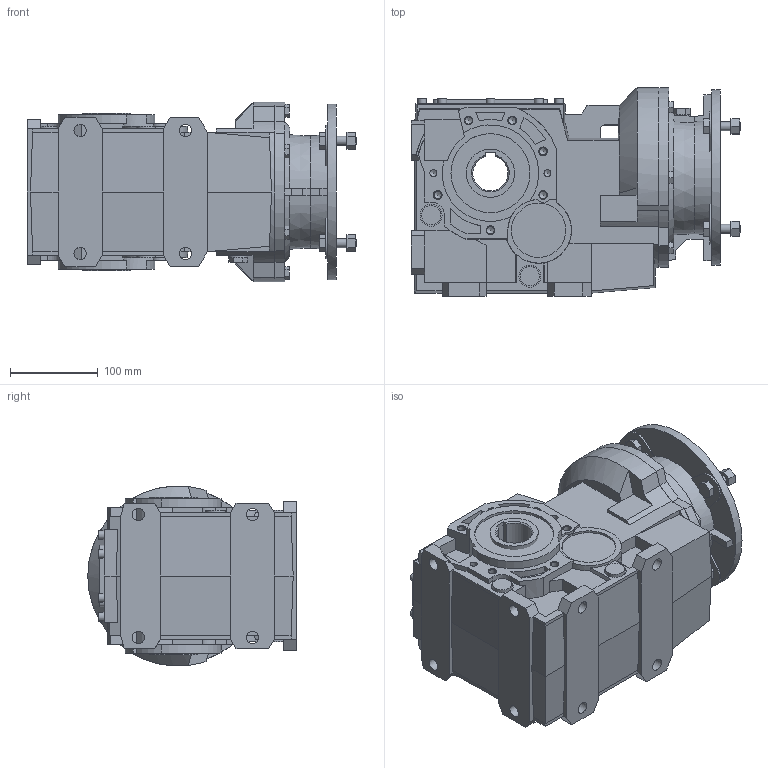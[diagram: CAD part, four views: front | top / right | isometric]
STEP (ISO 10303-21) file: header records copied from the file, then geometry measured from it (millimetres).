
FILE_DESCRIPTION(/* description */ ('STEP AP214'),/* implementation_level */ '2;1');
FILE_NAME(/* name */ 'B083UC80 B5400000000NO----(---------------)',/* time_stamp */ '2024-11-12T09:45:46+01:00',/* author */ ('License CC BY-ND 4.0'),/* organization */ ('CADENAS'),/* preprocessor_version */ 'ST-DEVELOPER v19.3',/* originating_system */ 'PARTsolutions',/* authorisation */ ' ');
FILE_SCHEMA (('AUTOMOTIVE_DESIGN {1 0 10303 214 3 1 1}'));
Length unit declared in the file: millimetre
Products named in the file (5): B083UC80 B5400000000NO----(---------------); 083-U-55; 083-40-C; 083-B-200x19(80 B51); B083-200x19
Assembly tree (4 placements, depth 2):
  B083UC80 B5400000000NO----(---------------)
    083-U-55
    083-40-C
    083-B-200x19(80 B51)
    B083-200x19
Bounding box: 375 x 237.5 x 204.95 mm (x, y, z)
Volume: 9423217 mm3; surface area: 613685.6 mm2
Topology: 4 solids, 4 shells, 672 faces, 1708 edges, 1120 vertices
Faces by surface type: plane 490, cylinder 135, cone 46, torus 1
Full cylindrical faces by diameter (mm): 5 x3, 8 x4, 8.376 x12, 9.1 x3, 10 x18, 14 x8, 22 x5, 25 x5, 32 x2, 50 x1, 55 x1, 90 x2, 130 x1, 160 x1, 200 x1
Entity records: 24077 total; most frequent: CARTESIAN_POINT 3476, DIRECTION 3234, ORIENTED_EDGE 3130, EDGE_CURVE 1565, LINE 1158, VECTOR 1158, VERTEX_POINT 1094, AXIS2_PLACEMENT_3D 1038
